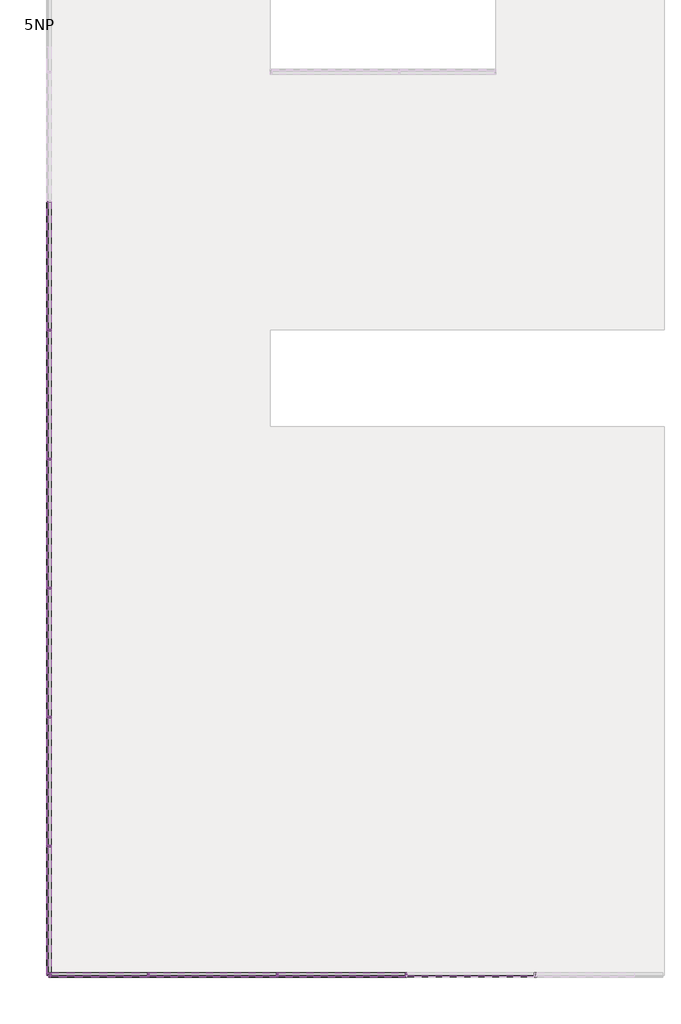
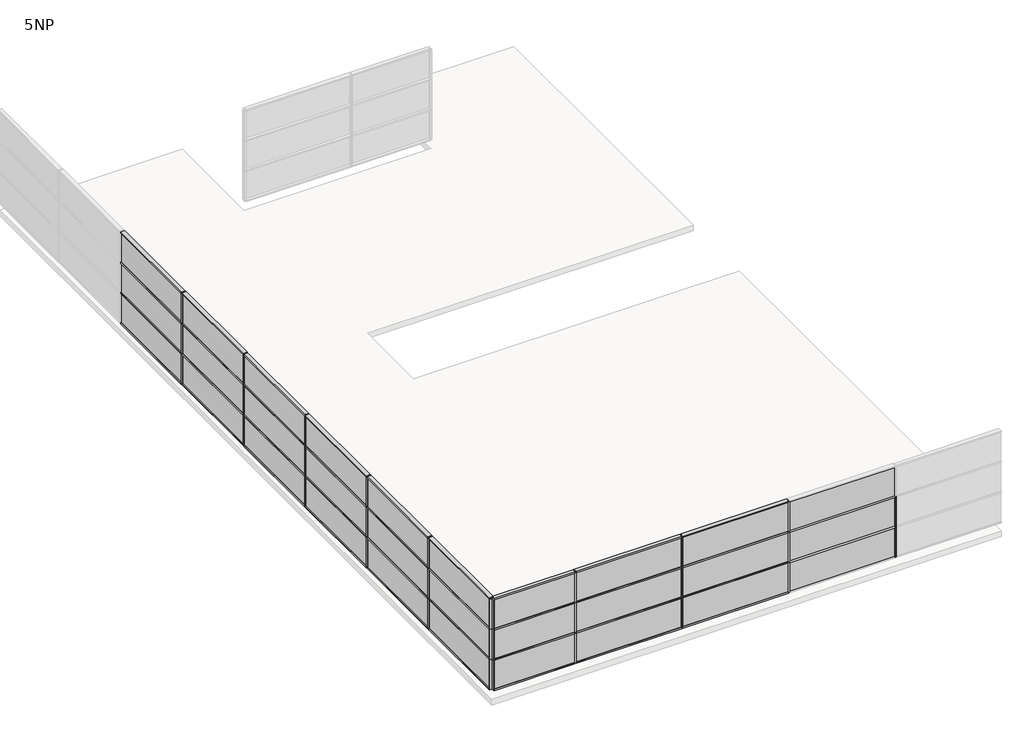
# One storey, part 1 of 3: 68 members, 30 plates.
"""IFC4 building model written with IfcOpenShell, lengths in millimetres."""

from ifc_helpers import new_model, si_unit, origin, place, context, project, spatial, transform, mapped, element, save
from components import rectangular_mullion_50_x_150mm_d99dc9be, rectangular_mullion_50_x_150mm_6588f46c, rectangular_mullion_50_x_150mm_a037c29c, rectangular_mullion_50_x_150mm_c2546fd4, rectangular_mullion_50_x_150mm_cd873b1a, system_panel_glazed_8e9402eb, system_panel_glazed_89ac83a7, system_panel_glazed_2dc425e2

model = new_model("IFC4")

# Units and contexts
model_context = context("Model", 3, world=origin())
ifc_project = project(units=[si_unit("LENGTHUNIT", "METRE", prefix="MILLI")], contexts=[model_context])

# Site, building, storey
site = spatial("IfcSite", under=ifc_project)
building = spatial("IfcBuilding", under=site)
storey = spatial("IfcBuildingStorey", under=building, Name="5NP", Elevation=20000.0)

# Members
placement = place(None, origin())
rectangular_mullion_50_x_150mm_shape = rectangular_mullion_50_x_150mm_d99dc9be(model_context)
element("IfcMember", 1, ObjectType="Rectangular Mullion : 50 x 150mm", at=placement, inside=storey, context=model_context, shape_type="MappedRepresentation", body=[
    mapped(rectangular_mullion_50_x_150mm_shape, transform((9503.2660975, -23624.0160434, 21600.0), x_axis=(-1.0, 0.0, 0.0), y_axis=(0.0, -1.0, 0.0), z_axis=(0.0, 0.0, 1.0))),
])
element("IfcMember", 2, ObjectType="Rectangular Mullion : 50 x 150mm", at=placement, inside=storey, context=model_context, shape_type="MappedRepresentation", body=[
    mapped(rectangular_mullion_50_x_150mm_shape, transform((9503.2660975, -23624.0160434, 22800.0), x_axis=(-1.0, 0.0, 0.0), y_axis=(0.0, -1.0, 0.0), z_axis=(0.0, 0.0, 1.0))),
])
element("IfcMember", 3, ObjectType="Rectangular Mullion : 50 x 150mm", at=placement, inside=storey, context=model_context, shape_type="MappedRepresentation", body=[
    mapped(rectangular_mullion_50_x_150mm_shape, transform((5503.2660975, -23624.0160434, 21600.0), x_axis=(-1.0, 0.0, 0.0), y_axis=(0.0, -1.0, 0.0), z_axis=(0.0, 0.0, 1.0))),
])
element("IfcMember", 4, ObjectType="Rectangular Mullion : 50 x 150mm", at=placement, inside=storey, context=model_context, shape_type="MappedRepresentation", body=[
    mapped(rectangular_mullion_50_x_150mm_shape, transform((5503.2660975, -23624.0160434, 22800.0), x_axis=(-1.0, 0.0, 0.0), y_axis=(0.0, -1.0, 0.0), z_axis=(0.0, 0.0, 1.0))),
])
element("IfcMember", 5, ObjectType="Rectangular Mullion : 50 x 150mm", at=placement, inside=storey, context=model_context, shape_type="MappedRepresentation", body=[
    mapped(rectangular_mullion_50_x_150mm_shape, transform((5503.2660975, -23624.0160434, 24000.0), x_axis=(-1.0, 0.0, 0.0), y_axis=(0.0, -1.0, 0.0), z_axis=(0.0, 0.0, 1.0))),
])
element("IfcMember", 6, ObjectType="Rectangular Mullion : 50 x 150mm", at=placement, inside=storey, context=model_context, shape_type="MappedRepresentation", body=[
    mapped(rectangular_mullion_50_x_150mm_shape, transform((1503.2660975, -23624.0160434, 21600.0), x_axis=(-1.0, 0.0, 0.0), y_axis=(0.0, -1.0, 0.0), z_axis=(0.0, 0.0, 1.0))),
])
element("IfcMember", 7, ObjectType="Rectangular Mullion : 50 x 150mm", at=placement, inside=storey, context=model_context, shape_type="MappedRepresentation", body=[
    mapped(rectangular_mullion_50_x_150mm_shape, transform((1503.2660975, -23624.0160434, 22800.0), x_axis=(-1.0, 0.0, 0.0), y_axis=(0.0, -1.0, 0.0), z_axis=(0.0, 0.0, 1.0))),
])
element("IfcMember", 8, ObjectType="Rectangular Mullion : 50 x 150mm", at=placement, inside=storey, context=model_context, shape_type="MappedRepresentation", body=[
    mapped(rectangular_mullion_50_x_150mm_shape, transform((1503.2660975, -23624.0160434, 24000.0), x_axis=(-1.0, 0.0, 0.0), y_axis=(0.0, -1.0, 0.0), z_axis=(0.0, 0.0, 1.0))),
])
element("IfcMember", 9, ObjectType="Rectangular Mullion : 50 x 150mm", at=placement, inside=storey, context=model_context, shape_type="MappedRepresentation", body=[
    mapped(rectangular_mullion_50_x_150mm_shape, transform((-2496.7339025, -23624.0160434, 21600.0), x_axis=(-1.0, 0.0, 0.0), y_axis=(0.0, -1.0, 0.0), z_axis=(0.0, 0.0, 1.0))),
])
element("IfcMember", 10, ObjectType="Rectangular Mullion : 50 x 150mm", at=placement, inside=storey, context=model_context, shape_type="MappedRepresentation", body=[
    mapped(rectangular_mullion_50_x_150mm_shape, transform((-2496.7339025, -23624.0160434, 22800.0), x_axis=(-1.0, 0.0, 0.0), y_axis=(0.0, -1.0, 0.0), z_axis=(0.0, 0.0, 1.0))),
])
element("IfcMember", 11, ObjectType="Rectangular Mullion : 50 x 150mm", at=placement, inside=storey, context=model_context, shape_type="MappedRepresentation", body=[
    mapped(rectangular_mullion_50_x_150mm_shape, transform((-2496.7339025, -23624.0160434, 24000.0), x_axis=(-1.0, 0.0, 0.0), y_axis=(0.0, -1.0, 0.0), z_axis=(0.0, 0.0, 1.0))),
])
element("IfcMember", 12, ObjectType="Rectangular Mullion : 50 x 150mm", at=placement, inside=storey, context=model_context, shape_type="MappedRepresentation", body=[
    mapped(rectangular_mullion_50_x_150mm_shape, transform((-5587.173406, -19624.0160434, 21600.0), x_axis=(0.0, 1.0, 0.0), y_axis=(-1.0, 0.0, 0.0), z_axis=(0.0, 0.0, 1.0))),
])
element("IfcMember", 13, ObjectType="Rectangular Mullion : 50 x 150mm", at=placement, inside=storey, context=model_context, shape_type="MappedRepresentation", body=[
    mapped(rectangular_mullion_50_x_150mm_shape, transform((-5587.173406, -19624.0160434, 22800.0), x_axis=(0.0, 1.0, 0.0), y_axis=(-1.0, 0.0, 0.0), z_axis=(0.0, 0.0, 1.0))),
])
element("IfcMember", 14, ObjectType="Rectangular Mullion : 50 x 150mm", at=placement, inside=storey, context=model_context, shape_type="MappedRepresentation", body=[
    mapped(rectangular_mullion_50_x_150mm_shape, transform((-5587.173406, -19624.0160434, 24000.0), x_axis=(0.0, 1.0, 0.0), y_axis=(-1.0, 0.0, 0.0), z_axis=(0.0, 0.0, 1.0))),
])
element("IfcMember", 15, ObjectType="Rectangular Mullion : 50 x 150mm", at=placement, inside=storey, context=model_context, shape_type="MappedRepresentation", body=[
    mapped(rectangular_mullion_50_x_150mm_shape, transform((-5587.173406, -15624.0160434, 21600.0), x_axis=(0.0, 1.0, 0.0), y_axis=(-1.0, 0.0, 0.0), z_axis=(0.0, 0.0, 1.0))),
])
element("IfcMember", 16, ObjectType="Rectangular Mullion : 50 x 150mm", at=placement, inside=storey, context=model_context, shape_type="MappedRepresentation", body=[
    mapped(rectangular_mullion_50_x_150mm_shape, transform((-5587.173406, -15624.0160434, 22800.0), x_axis=(0.0, 1.0, 0.0), y_axis=(-1.0, 0.0, 0.0), z_axis=(0.0, 0.0, 1.0))),
])
element("IfcMember", 17, ObjectType="Rectangular Mullion : 50 x 150mm", at=placement, inside=storey, context=model_context, shape_type="MappedRepresentation", body=[
    mapped(rectangular_mullion_50_x_150mm_shape, transform((-5587.173406, -15624.0160434, 24000.0), x_axis=(0.0, 1.0, 0.0), y_axis=(-1.0, 0.0, 0.0), z_axis=(0.0, 0.0, 1.0))),
])
element("IfcMember", 18, ObjectType="Rectangular Mullion : 50 x 150mm", at=placement, inside=storey, context=model_context, shape_type="MappedRepresentation", body=[
    mapped(rectangular_mullion_50_x_150mm_shape, transform((-5587.173406, -11624.0160434, 21600.0), x_axis=(0.0, 1.0, 0.0), y_axis=(-1.0, 0.0, 0.0), z_axis=(0.0, 0.0, 1.0))),
])
element("IfcMember", 19, ObjectType="Rectangular Mullion : 50 x 150mm", at=placement, inside=storey, context=model_context, shape_type="MappedRepresentation", body=[
    mapped(rectangular_mullion_50_x_150mm_shape, transform((-5587.173406, -11624.0160434, 22800.0), x_axis=(0.0, 1.0, 0.0), y_axis=(-1.0, 0.0, 0.0), z_axis=(0.0, 0.0, 1.0))),
])
element("IfcMember", 20, ObjectType="Rectangular Mullion : 50 x 150mm", at=placement, inside=storey, context=model_context, shape_type="MappedRepresentation", body=[
    mapped(rectangular_mullion_50_x_150mm_shape, transform((-5587.173406, -11624.0160434, 24000.0), x_axis=(0.0, 1.0, 0.0), y_axis=(-1.0, 0.0, 0.0), z_axis=(0.0, 0.0, 1.0))),
])
element("IfcMember", 21, ObjectType="Rectangular Mullion : 50 x 150mm", at=placement, inside=storey, context=model_context, shape_type="MappedRepresentation", body=[
    mapped(rectangular_mullion_50_x_150mm_shape, transform((-5587.173406, -7624.0160434, 21600.0), x_axis=(0.0, 1.0, 0.0), y_axis=(-1.0, 0.0, 0.0), z_axis=(0.0, 0.0, 1.0))),
])
element("IfcMember", 22, ObjectType="Rectangular Mullion : 50 x 150mm", at=placement, inside=storey, context=model_context, shape_type="MappedRepresentation", body=[
    mapped(rectangular_mullion_50_x_150mm_shape, transform((-5587.173406, -7624.0160434, 22800.0), x_axis=(0.0, 1.0, 0.0), y_axis=(-1.0, 0.0, 0.0), z_axis=(0.0, 0.0, 1.0))),
])
element("IfcMember", 23, ObjectType="Rectangular Mullion : 50 x 150mm", at=placement, inside=storey, context=model_context, shape_type="MappedRepresentation", body=[
    mapped(rectangular_mullion_50_x_150mm_shape, transform((-5587.173406, -7624.0160434, 24000.0), x_axis=(0.0, 1.0, 0.0), y_axis=(-1.0, 0.0, 0.0), z_axis=(0.0, 0.0, 1.0))),
])
element("IfcMember", 24, ObjectType="Rectangular Mullion : 50 x 150mm", at=placement, inside=storey, context=model_context, shape_type="MappedRepresentation", body=[
    mapped(rectangular_mullion_50_x_150mm_shape, transform((-5587.173406, -3624.0160434, 21600.0), x_axis=(0.0, 1.0, 0.0), y_axis=(-1.0, 0.0, 0.0), z_axis=(0.0, 0.0, 1.0))),
])
element("IfcMember", 25, ObjectType="Rectangular Mullion : 50 x 150mm", at=placement, inside=storey, context=model_context, shape_type="MappedRepresentation", body=[
    mapped(rectangular_mullion_50_x_150mm_shape, transform((-5587.173406, -3624.0160434, 22800.0), x_axis=(0.0, 1.0, 0.0), y_axis=(-1.0, 0.0, 0.0), z_axis=(0.0, 0.0, 1.0))),
])
element("IfcMember", 26, ObjectType="Rectangular Mullion : 50 x 150mm", at=placement, inside=storey, context=model_context, shape_type="MappedRepresentation", body=[
    mapped(rectangular_mullion_50_x_150mm_shape, transform((-5587.173406, -3624.0160434, 24000.0), x_axis=(0.0, 1.0, 0.0), y_axis=(-1.0, 0.0, 0.0), z_axis=(0.0, 0.0, 1.0))),
])
rectangular_mullion_50_x_150mm_2_shape = rectangular_mullion_50_x_150mm_6588f46c(model_context)
element("IfcMember", 27, ObjectType="Rectangular Mullion : 50 x 150mm", at=placement, inside=storey, context=model_context, shape_type="MappedRepresentation", body=[
    mapped(rectangular_mullion_50_x_150mm_2_shape, transform((-5587.173406, -23624.0160434, 21600.0), x_axis=(-1.0, 0.0, 0.0), y_axis=(0.0, -1.0, 0.0), z_axis=(0.0, 0.0, 1.0))),
])
element("IfcMember", 28, ObjectType="Rectangular Mullion : 50 x 150mm", at=placement, inside=storey, context=model_context, shape_type="MappedRepresentation", body=[
    mapped(rectangular_mullion_50_x_150mm_2_shape, transform((-5587.173406, -23624.0160434, 22800.0), x_axis=(-1.0, 0.0, 0.0), y_axis=(0.0, -1.0, 0.0), z_axis=(0.0, 0.0, 1.0))),
])
element("IfcMember", 29, ObjectType="Rectangular Mullion : 50 x 150mm", at=placement, inside=storey, context=model_context, shape_type="MappedRepresentation", body=[
    mapped(rectangular_mullion_50_x_150mm_2_shape, transform((-5587.173406, -23624.0160434, 24000.0), x_axis=(-1.0, 0.0, 0.0), y_axis=(0.0, -1.0, 0.0), z_axis=(0.0, 0.0, 1.0))),
])
rectangular_mullion_50_x_150mm_3_shape = rectangular_mullion_50_x_150mm_a037c29c(model_context)
element("IfcMember", 30, ObjectType="Rectangular Mullion : 50 x 150mm", at=placement, inside=storey, context=model_context, shape_type="MappedRepresentation", body=[
    mapped(rectangular_mullion_50_x_150mm_3_shape, transform((5478.2660975, -23624.0160434, 20400.0), x_axis=(0.0, 0.0, 1.0), y_axis=(0.0, -1.0, 0.0), z_axis=(1.0, 0.0, 0.0))),
])
element("IfcMember", 31, ObjectType="Rectangular Mullion : 50 x 150mm", at=placement, inside=storey, context=model_context, shape_type="MappedRepresentation", body=[
    mapped(rectangular_mullion_50_x_150mm_3_shape, transform((1478.2660975, -23624.0160434, 20400.0), x_axis=(0.0, 0.0, 1.0), y_axis=(0.0, -1.0, 0.0), z_axis=(1.0, 0.0, 0.0))),
])
element("IfcMember", 32, ObjectType="Rectangular Mullion : 50 x 150mm", at=placement, inside=storey, context=model_context, shape_type="MappedRepresentation", body=[
    mapped(rectangular_mullion_50_x_150mm_3_shape, transform((5478.2660975, -23624.0160434, 21600.0), x_axis=(0.0, 0.0, 1.0), y_axis=(0.0, -1.0, 0.0), z_axis=(1.0, 0.0, 0.0))),
])
element("IfcMember", 33, ObjectType="Rectangular Mullion : 50 x 150mm", at=placement, inside=storey, context=model_context, shape_type="MappedRepresentation", body=[
    mapped(rectangular_mullion_50_x_150mm_3_shape, transform((1478.2660975, -23624.0160434, 21600.0), x_axis=(0.0, 0.0, 1.0), y_axis=(0.0, -1.0, 0.0), z_axis=(1.0, 0.0, 0.0))),
])
element("IfcMember", 34, ObjectType="Rectangular Mullion : 50 x 150mm", at=placement, inside=storey, context=model_context, shape_type="MappedRepresentation", body=[
    mapped(rectangular_mullion_50_x_150mm_3_shape, transform((5478.2660975, -23624.0160434, 22800.0), x_axis=(0.0, 0.0, 1.0), y_axis=(0.0, -1.0, 0.0), z_axis=(1.0, 0.0, 0.0))),
])
element("IfcMember", 35, ObjectType="Rectangular Mullion : 50 x 150mm", at=placement, inside=storey, context=model_context, shape_type="MappedRepresentation", body=[
    mapped(rectangular_mullion_50_x_150mm_3_shape, transform((1478.2660975, -23624.0160434, 22800.0), x_axis=(0.0, 0.0, 1.0), y_axis=(0.0, -1.0, 0.0), z_axis=(1.0, 0.0, 0.0))),
])
element("IfcMember", 36, ObjectType="Rectangular Mullion : 50 x 150mm", at=placement, inside=storey, context=model_context, shape_type="MappedRepresentation", body=[
    mapped(rectangular_mullion_50_x_150mm_3_shape, transform((5478.2660975, -23624.0160434, 24000.0), x_axis=(0.0, 0.0, 1.0), y_axis=(0.0, -1.0, 0.0), z_axis=(1.0, 0.0, 0.0))),
])
element("IfcMember", 37, ObjectType="Rectangular Mullion : 50 x 150mm", at=placement, inside=storey, context=model_context, shape_type="MappedRepresentation", body=[
    mapped(rectangular_mullion_50_x_150mm_3_shape, transform((1478.2660975, -23624.0160434, 24000.0), x_axis=(0.0, 0.0, 1.0), y_axis=(0.0, -1.0, 0.0), z_axis=(1.0, 0.0, 0.0))),
])
element("IfcMember", 38, ObjectType="Rectangular Mullion : 50 x 150mm", at=placement, inside=storey, context=model_context, shape_type="MappedRepresentation", body=[
    mapped(rectangular_mullion_50_x_150mm_3_shape, transform((-5587.173406, -19599.0160434, 20400.0), x_axis=(0.0, 0.0, 1.0), y_axis=(-1.0, 0.0, 0.0), z_axis=(0.0, -1.0, 0.0))),
])
element("IfcMember", 39, ObjectType="Rectangular Mullion : 50 x 150mm", at=placement, inside=storey, context=model_context, shape_type="MappedRepresentation", body=[
    mapped(rectangular_mullion_50_x_150mm_3_shape, transform((-5587.173406, -15599.0160434, 20400.0), x_axis=(0.0, 0.0, 1.0), y_axis=(-1.0, 0.0, 0.0), z_axis=(0.0, -1.0, 0.0))),
])
element("IfcMember", 40, ObjectType="Rectangular Mullion : 50 x 150mm", at=placement, inside=storey, context=model_context, shape_type="MappedRepresentation", body=[
    mapped(rectangular_mullion_50_x_150mm_3_shape, transform((-5587.173406, -11599.0160434, 20400.0), x_axis=(0.0, 0.0, 1.0), y_axis=(-1.0, 0.0, 0.0), z_axis=(0.0, -1.0, 0.0))),
])
element("IfcMember", 41, ObjectType="Rectangular Mullion : 50 x 150mm", at=placement, inside=storey, context=model_context, shape_type="MappedRepresentation", body=[
    mapped(rectangular_mullion_50_x_150mm_3_shape, transform((-5587.173406, -7599.0160434, 20400.0), x_axis=(0.0, 0.0, 1.0), y_axis=(-1.0, 0.0, 0.0), z_axis=(0.0, -1.0, 0.0))),
])
element("IfcMember", 42, ObjectType="Rectangular Mullion : 50 x 150mm", at=placement, inside=storey, context=model_context, shape_type="MappedRepresentation", body=[
    mapped(rectangular_mullion_50_x_150mm_3_shape, transform((-5587.173406, -3599.0160434, 20400.0), x_axis=(0.0, 0.0, 1.0), y_axis=(-1.0, 0.0, 0.0), z_axis=(0.0, -1.0, 0.0))),
])
element("IfcMember", 43, ObjectType="Rectangular Mullion : 50 x 150mm", at=placement, inside=storey, context=model_context, shape_type="MappedRepresentation", body=[
    mapped(rectangular_mullion_50_x_150mm_3_shape, transform((-5587.173406, -19599.0160434, 21600.0), x_axis=(0.0, 0.0, 1.0), y_axis=(-1.0, 0.0, 0.0), z_axis=(0.0, -1.0, 0.0))),
])
element("IfcMember", 44, ObjectType="Rectangular Mullion : 50 x 150mm", at=placement, inside=storey, context=model_context, shape_type="MappedRepresentation", body=[
    mapped(rectangular_mullion_50_x_150mm_3_shape, transform((-5587.173406, -15599.0160434, 21600.0), x_axis=(0.0, 0.0, 1.0), y_axis=(-1.0, 0.0, 0.0), z_axis=(0.0, -1.0, 0.0))),
])
element("IfcMember", 45, ObjectType="Rectangular Mullion : 50 x 150mm", at=placement, inside=storey, context=model_context, shape_type="MappedRepresentation", body=[
    mapped(rectangular_mullion_50_x_150mm_3_shape, transform((-5587.173406, -11599.0160434, 21600.0), x_axis=(0.0, 0.0, 1.0), y_axis=(-1.0, 0.0, 0.0), z_axis=(0.0, -1.0, 0.0))),
])
element("IfcMember", 46, ObjectType="Rectangular Mullion : 50 x 150mm", at=placement, inside=storey, context=model_context, shape_type="MappedRepresentation", body=[
    mapped(rectangular_mullion_50_x_150mm_3_shape, transform((-5587.173406, -7599.0160434, 21600.0), x_axis=(0.0, 0.0, 1.0), y_axis=(-1.0, 0.0, 0.0), z_axis=(0.0, -1.0, 0.0))),
])
element("IfcMember", 47, ObjectType="Rectangular Mullion : 50 x 150mm", at=placement, inside=storey, context=model_context, shape_type="MappedRepresentation", body=[
    mapped(rectangular_mullion_50_x_150mm_3_shape, transform((-5587.173406, -3599.0160434, 21600.0), x_axis=(0.0, 0.0, 1.0), y_axis=(-1.0, 0.0, 0.0), z_axis=(0.0, -1.0, 0.0))),
])
element("IfcMember", 48, ObjectType="Rectangular Mullion : 50 x 150mm", at=placement, inside=storey, context=model_context, shape_type="MappedRepresentation", body=[
    mapped(rectangular_mullion_50_x_150mm_3_shape, transform((-5587.173406, -19599.0160434, 22800.0), x_axis=(0.0, 0.0, 1.0), y_axis=(-1.0, 0.0, 0.0), z_axis=(0.0, -1.0, 0.0))),
])
element("IfcMember", 49, ObjectType="Rectangular Mullion : 50 x 150mm", at=placement, inside=storey, context=model_context, shape_type="MappedRepresentation", body=[
    mapped(rectangular_mullion_50_x_150mm_3_shape, transform((-5587.173406, -15599.0160434, 22800.0), x_axis=(0.0, 0.0, 1.0), y_axis=(-1.0, 0.0, 0.0), z_axis=(0.0, -1.0, 0.0))),
])
element("IfcMember", 50, ObjectType="Rectangular Mullion : 50 x 150mm", at=placement, inside=storey, context=model_context, shape_type="MappedRepresentation", body=[
    mapped(rectangular_mullion_50_x_150mm_3_shape, transform((-5587.173406, -11599.0160434, 22800.0), x_axis=(0.0, 0.0, 1.0), y_axis=(-1.0, 0.0, 0.0), z_axis=(0.0, -1.0, 0.0))),
])
element("IfcMember", 51, ObjectType="Rectangular Mullion : 50 x 150mm", at=placement, inside=storey, context=model_context, shape_type="MappedRepresentation", body=[
    mapped(rectangular_mullion_50_x_150mm_3_shape, transform((-5587.173406, -7599.0160434, 22800.0), x_axis=(0.0, 0.0, 1.0), y_axis=(-1.0, 0.0, 0.0), z_axis=(0.0, -1.0, 0.0))),
])
element("IfcMember", 52, ObjectType="Rectangular Mullion : 50 x 150mm", at=placement, inside=storey, context=model_context, shape_type="MappedRepresentation", body=[
    mapped(rectangular_mullion_50_x_150mm_3_shape, transform((-5587.173406, -3599.0160434, 22800.0), x_axis=(0.0, 0.0, 1.0), y_axis=(-1.0, 0.0, 0.0), z_axis=(0.0, -1.0, 0.0))),
])
element("IfcMember", 53, ObjectType="Rectangular Mullion : 50 x 150mm", at=placement, inside=storey, context=model_context, shape_type="MappedRepresentation", body=[
    mapped(rectangular_mullion_50_x_150mm_3_shape, transform((-5587.173406, -19599.0160434, 24000.0), x_axis=(0.0, 0.0, 1.0), y_axis=(-1.0, 0.0, 0.0), z_axis=(0.0, -1.0, 0.0))),
])
element("IfcMember", 54, ObjectType="Rectangular Mullion : 50 x 150mm", at=placement, inside=storey, context=model_context, shape_type="MappedRepresentation", body=[
    mapped(rectangular_mullion_50_x_150mm_3_shape, transform((-5587.173406, -15599.0160434, 24000.0), x_axis=(0.0, 0.0, 1.0), y_axis=(-1.0, 0.0, 0.0), z_axis=(0.0, -1.0, 0.0))),
])
element("IfcMember", 55, ObjectType="Rectangular Mullion : 50 x 150mm", at=placement, inside=storey, context=model_context, shape_type="MappedRepresentation", body=[
    mapped(rectangular_mullion_50_x_150mm_3_shape, transform((-5587.173406, -11599.0160434, 24000.0), x_axis=(0.0, 0.0, 1.0), y_axis=(-1.0, 0.0, 0.0), z_axis=(0.0, -1.0, 0.0))),
])
element("IfcMember", 56, ObjectType="Rectangular Mullion : 50 x 150mm", at=placement, inside=storey, context=model_context, shape_type="MappedRepresentation", body=[
    mapped(rectangular_mullion_50_x_150mm_3_shape, transform((-5587.173406, -7599.0160434, 24000.0), x_axis=(0.0, 0.0, 1.0), y_axis=(-1.0, 0.0, 0.0), z_axis=(0.0, -1.0, 0.0))),
])
element("IfcMember", 57, ObjectType="Rectangular Mullion : 50 x 150mm", at=placement, inside=storey, context=model_context, shape_type="MappedRepresentation", body=[
    mapped(rectangular_mullion_50_x_150mm_3_shape, transform((-5587.173406, -3599.0160434, 24000.0), x_axis=(0.0, 0.0, 1.0), y_axis=(-1.0, 0.0, 0.0), z_axis=(0.0, -1.0, 0.0))),
])
rectangular_mullion_50_x_150mm_4_shape = rectangular_mullion_50_x_150mm_c2546fd4(model_context)
element("IfcMember", 58, ObjectType="Rectangular Mullion : 50 x 150mm", at=placement, inside=storey, context=model_context, shape_type="MappedRepresentation", body=[
    mapped(rectangular_mullion_50_x_150mm_4_shape, transform((-5587.173406, -23574.0160434, 20400.0), x_axis=(0.0, 0.0, 1.0), y_axis=(-1.0, 0.0, 0.0), z_axis=(0.0, -1.0, 0.0))),
])
element("IfcMember", 59, ObjectType="Rectangular Mullion : 50 x 150mm", at=placement, inside=storey, context=model_context, shape_type="MappedRepresentation", body=[
    mapped(rectangular_mullion_50_x_150mm_4_shape, transform((-5587.173406, -23574.0160434, 21600.0), x_axis=(0.0, 0.0, 1.0), y_axis=(-1.0, 0.0, 0.0), z_axis=(0.0, -1.0, 0.0))),
])
element("IfcMember", 60, ObjectType="Rectangular Mullion : 50 x 150mm", at=placement, inside=storey, context=model_context, shape_type="MappedRepresentation", body=[
    mapped(rectangular_mullion_50_x_150mm_4_shape, transform((-5587.173406, -23574.0160434, 22800.0), x_axis=(0.0, 0.0, 1.0), y_axis=(-1.0, 0.0, 0.0), z_axis=(0.0, -1.0, 0.0))),
])
element("IfcMember", 61, ObjectType="Rectangular Mullion : 50 x 150mm", at=placement, inside=storey, context=model_context, shape_type="MappedRepresentation", body=[
    mapped(rectangular_mullion_50_x_150mm_4_shape, transform((-5587.173406, -23574.0160434, 24000.0), x_axis=(0.0, 0.0, 1.0), y_axis=(-1.0, 0.0, 0.0), z_axis=(0.0, -1.0, 0.0))),
])
element("IfcMember", 62, ObjectType="Rectangular Mullion : 50 x 150mm", at=placement, inside=storey, context=model_context, shape_type="MappedRepresentation", body=[
    mapped(rectangular_mullion_50_x_150mm_2_shape, transform((-5587.173406, -23624.0160434, 20400.0), x_axis=(0.0, -1.0, 0.0), y_axis=(-1.0, 0.0, 0.0), z_axis=(0.0, 0.0, -1.0))),
])
element("IfcMember", 63, ObjectType="Rectangular Mullion : 50 x 150mm", at=placement, inside=storey, context=model_context, shape_type="MappedRepresentation", body=[
    mapped(rectangular_mullion_50_x_150mm_2_shape, transform((-5587.173406, -23624.0160434, 21600.0), x_axis=(0.0, -1.0, 0.0), y_axis=(-1.0, 0.0, 0.0), z_axis=(0.0, 0.0, -1.0))),
])
element("IfcMember", 64, ObjectType="Rectangular Mullion : 50 x 150mm", at=placement, inside=storey, context=model_context, shape_type="MappedRepresentation", body=[
    mapped(rectangular_mullion_50_x_150mm_2_shape, transform((-5587.173406, -23624.0160434, 22800.0), x_axis=(0.0, -1.0, 0.0), y_axis=(-1.0, 0.0, 0.0), z_axis=(0.0, 0.0, -1.0))),
])
rectangular_mullion_50_x_150mm_5_shape = rectangular_mullion_50_x_150mm_cd873b1a(model_context)
element("IfcMember", 65, ObjectType="Rectangular Mullion : 50 x 150mm", at=placement, inside=storey, context=model_context, shape_type="MappedRepresentation", body=[
    mapped(rectangular_mullion_50_x_150mm_5_shape, transform((-2521.7339025, -23624.0160434, 20400.0), x_axis=(0.0, 0.0, 1.0), y_axis=(0.0, -1.0, 0.0), z_axis=(1.0, 0.0, 0.0))),
])
element("IfcMember", 66, ObjectType="Rectangular Mullion : 50 x 150mm", at=placement, inside=storey, context=model_context, shape_type="MappedRepresentation", body=[
    mapped(rectangular_mullion_50_x_150mm_5_shape, transform((-2521.7339025, -23624.0160434, 21600.0), x_axis=(0.0, 0.0, 1.0), y_axis=(0.0, -1.0, 0.0), z_axis=(1.0, 0.0, 0.0))),
])
element("IfcMember", 67, ObjectType="Rectangular Mullion : 50 x 150mm", at=placement, inside=storey, context=model_context, shape_type="MappedRepresentation", body=[
    mapped(rectangular_mullion_50_x_150mm_5_shape, transform((-2521.7339025, -23624.0160434, 22800.0), x_axis=(0.0, 0.0, 1.0), y_axis=(0.0, -1.0, 0.0), z_axis=(1.0, 0.0, 0.0))),
])
element("IfcMember", 68, ObjectType="Rectangular Mullion : 50 x 150mm", at=placement, inside=storey, context=model_context, shape_type="MappedRepresentation", body=[
    mapped(rectangular_mullion_50_x_150mm_5_shape, transform((-2521.7339025, -23624.0160434, 24000.0), x_axis=(0.0, 0.0, 1.0), y_axis=(0.0, -1.0, 0.0), z_axis=(1.0, 0.0, 0.0))),
])

# Plates
system_panel_glazed_shape = system_panel_glazed_8e9402eb(model_context)
element("IfcPlate", 69, ObjectType="System Panel : Glazed", at=placement, inside=storey, context=model_context, shape_type="MappedRepresentation", body=[
    mapped(system_panel_glazed_shape, transform((-5587.173406, -21611.5160434, 20425.0), x_axis=(0.0, 1.0, 0.0), y_axis=(-1.0, 0.0, 0.0), z_axis=(0.0, 0.0, 1.0))),
])
element("IfcPlate", 70, ObjectType="System Panel : Glazed", at=placement, inside=storey, context=model_context, shape_type="MappedRepresentation", body=[
    mapped(system_panel_glazed_shape, transform((-5587.173406, -21611.5160434, 21625.0), x_axis=(0.0, 1.0, 0.0), y_axis=(-1.0, 0.0, 0.0), z_axis=(0.0, 0.0, 1.0))),
])
element("IfcPlate", 71, ObjectType="System Panel : Glazed", at=placement, inside=storey, context=model_context, shape_type="MappedRepresentation", body=[
    mapped(system_panel_glazed_shape, transform((-5587.173406, -21611.5160434, 22825.0), x_axis=(0.0, 1.0, 0.0), y_axis=(-1.0, 0.0, 0.0), z_axis=(0.0, 0.0, 1.0))),
])
system_panel_glazed_2_shape = system_panel_glazed_89ac83a7(model_context)
element("IfcPlate", 72, ObjectType="System Panel : Glazed", at=placement, inside=storey, context=model_context, shape_type="MappedRepresentation", body=[
    mapped(system_panel_glazed_2_shape, transform((-5587.173406, -17624.0160434, 20425.0), x_axis=(0.0, 1.0, 0.0), y_axis=(-1.0, 0.0, 0.0), z_axis=(0.0, 0.0, 1.0))),
])
element("IfcPlate", 73, ObjectType="System Panel : Glazed", at=placement, inside=storey, context=model_context, shape_type="MappedRepresentation", body=[
    mapped(system_panel_glazed_2_shape, transform((-5587.173406, -13624.0160434, 20425.0), x_axis=(0.0, 1.0, 0.0), y_axis=(-1.0, 0.0, 0.0), z_axis=(0.0, 0.0, 1.0))),
])
element("IfcPlate", 74, ObjectType="System Panel : Glazed", at=placement, inside=storey, context=model_context, shape_type="MappedRepresentation", body=[
    mapped(system_panel_glazed_2_shape, transform((-5587.173406, -9624.0160434, 20425.0), x_axis=(0.0, 1.0, 0.0), y_axis=(-1.0, 0.0, 0.0), z_axis=(0.0, 0.0, 1.0))),
])
element("IfcPlate", 75, ObjectType="System Panel : Glazed", at=placement, inside=storey, context=model_context, shape_type="MappedRepresentation", body=[
    mapped(system_panel_glazed_2_shape, transform((-5587.173406, -5624.0160434, 20425.0), x_axis=(0.0, 1.0, 0.0), y_axis=(-1.0, 0.0, 0.0), z_axis=(0.0, 0.0, 1.0))),
])
element("IfcPlate", 76, ObjectType="System Panel : Glazed", at=placement, inside=storey, context=model_context, shape_type="MappedRepresentation", body=[
    mapped(system_panel_glazed_2_shape, transform((-5587.173406, -1624.0160434, 20425.0), x_axis=(0.0, 1.0, 0.0), y_axis=(-1.0, 0.0, 0.0), z_axis=(0.0, 0.0, 1.0))),
])
element("IfcPlate", 77, ObjectType="System Panel : Glazed", at=placement, inside=storey, context=model_context, shape_type="MappedRepresentation", body=[
    mapped(system_panel_glazed_2_shape, transform((-5587.173406, -17624.0160434, 21625.0), x_axis=(0.0, 1.0, 0.0), y_axis=(-1.0, 0.0, 0.0), z_axis=(0.0, 0.0, 1.0))),
])
element("IfcPlate", 78, ObjectType="System Panel : Glazed", at=placement, inside=storey, context=model_context, shape_type="MappedRepresentation", body=[
    mapped(system_panel_glazed_2_shape, transform((-5587.173406, -13624.0160434, 21625.0), x_axis=(0.0, 1.0, 0.0), y_axis=(-1.0, 0.0, 0.0), z_axis=(0.0, 0.0, 1.0))),
])
element("IfcPlate", 79, ObjectType="System Panel : Glazed", at=placement, inside=storey, context=model_context, shape_type="MappedRepresentation", body=[
    mapped(system_panel_glazed_2_shape, transform((-5587.173406, -9624.0160434, 21625.0), x_axis=(0.0, 1.0, 0.0), y_axis=(-1.0, 0.0, 0.0), z_axis=(0.0, 0.0, 1.0))),
])
element("IfcPlate", 80, ObjectType="System Panel : Glazed", at=placement, inside=storey, context=model_context, shape_type="MappedRepresentation", body=[
    mapped(system_panel_glazed_2_shape, transform((-5587.173406, -5624.0160434, 21625.0), x_axis=(0.0, 1.0, 0.0), y_axis=(-1.0, 0.0, 0.0), z_axis=(0.0, 0.0, 1.0))),
])
element("IfcPlate", 81, ObjectType="System Panel : Glazed", at=placement, inside=storey, context=model_context, shape_type="MappedRepresentation", body=[
    mapped(system_panel_glazed_2_shape, transform((-5587.173406, -1624.0160434, 21625.0), x_axis=(0.0, 1.0, 0.0), y_axis=(-1.0, 0.0, 0.0), z_axis=(0.0, 0.0, 1.0))),
])
element("IfcPlate", 82, ObjectType="System Panel : Glazed", at=placement, inside=storey, context=model_context, shape_type="MappedRepresentation", body=[
    mapped(system_panel_glazed_2_shape, transform((7503.2660975, -23624.0160434, 20425.0), x_axis=(-1.0, 0.0, 0.0), y_axis=(0.0, -1.0, 0.0), z_axis=(0.0, 0.0, 1.0))),
])
element("IfcPlate", 83, ObjectType="System Panel : Glazed", at=placement, inside=storey, context=model_context, shape_type="MappedRepresentation", body=[
    mapped(system_panel_glazed_2_shape, transform((3503.2660975, -23624.0160434, 20425.0), x_axis=(-1.0, 0.0, 0.0), y_axis=(0.0, -1.0, 0.0), z_axis=(0.0, 0.0, 1.0))),
])
element("IfcPlate", 84, ObjectType="System Panel : Glazed", at=placement, inside=storey, context=model_context, shape_type="MappedRepresentation", body=[
    mapped(system_panel_glazed_2_shape, transform((-496.7339025, -23624.0160434, 20425.0), x_axis=(-1.0, 0.0, 0.0), y_axis=(0.0, -1.0, 0.0), z_axis=(0.0, 0.0, 1.0))),
])
element("IfcPlate", 85, ObjectType="System Panel : Glazed", at=placement, inside=storey, context=model_context, shape_type="MappedRepresentation", body=[
    mapped(system_panel_glazed_2_shape, transform((7503.2660975, -23624.0160434, 21625.0), x_axis=(-1.0, 0.0, 0.0), y_axis=(0.0, -1.0, 0.0), z_axis=(0.0, 0.0, 1.0))),
])
element("IfcPlate", 86, ObjectType="System Panel : Glazed", at=placement, inside=storey, context=model_context, shape_type="MappedRepresentation", body=[
    mapped(system_panel_glazed_2_shape, transform((3503.2660975, -23624.0160434, 21625.0), x_axis=(-1.0, 0.0, 0.0), y_axis=(0.0, -1.0, 0.0), z_axis=(0.0, 0.0, 1.0))),
])
element("IfcPlate", 87, ObjectType="System Panel : Glazed", at=placement, inside=storey, context=model_context, shape_type="MappedRepresentation", body=[
    mapped(system_panel_glazed_2_shape, transform((-496.7339025, -23624.0160434, 21625.0), x_axis=(-1.0, 0.0, 0.0), y_axis=(0.0, -1.0, 0.0), z_axis=(0.0, 0.0, 1.0))),
])
element("IfcPlate", 88, ObjectType="System Panel : Glazed", at=placement, inside=storey, context=model_context, shape_type="MappedRepresentation", body=[
    mapped(system_panel_glazed_2_shape, transform((-5587.173406, -17624.0160434, 22825.0), x_axis=(0.0, 1.0, 0.0), y_axis=(-1.0, 0.0, 0.0), z_axis=(0.0, 0.0, 1.0))),
])
element("IfcPlate", 89, ObjectType="System Panel : Glazed", at=placement, inside=storey, context=model_context, shape_type="MappedRepresentation", body=[
    mapped(system_panel_glazed_2_shape, transform((-5587.173406, -13624.0160434, 22825.0), x_axis=(0.0, 1.0, 0.0), y_axis=(-1.0, 0.0, 0.0), z_axis=(0.0, 0.0, 1.0))),
])
element("IfcPlate", 90, ObjectType="System Panel : Glazed", at=placement, inside=storey, context=model_context, shape_type="MappedRepresentation", body=[
    mapped(system_panel_glazed_2_shape, transform((-5587.173406, -9624.0160434, 22825.0), x_axis=(0.0, 1.0, 0.0), y_axis=(-1.0, 0.0, 0.0), z_axis=(0.0, 0.0, 1.0))),
])
element("IfcPlate", 91, ObjectType="System Panel : Glazed", at=placement, inside=storey, context=model_context, shape_type="MappedRepresentation", body=[
    mapped(system_panel_glazed_2_shape, transform((-5587.173406, -5624.0160434, 22825.0), x_axis=(0.0, 1.0, 0.0), y_axis=(-1.0, 0.0, 0.0), z_axis=(0.0, 0.0, 1.0))),
])
element("IfcPlate", 92, ObjectType="System Panel : Glazed", at=placement, inside=storey, context=model_context, shape_type="MappedRepresentation", body=[
    mapped(system_panel_glazed_2_shape, transform((-5587.173406, -1624.0160434, 22825.0), x_axis=(0.0, 1.0, 0.0), y_axis=(-1.0, 0.0, 0.0), z_axis=(0.0, 0.0, 1.0))),
])
element("IfcPlate", 93, ObjectType="System Panel : Glazed", at=placement, inside=storey, context=model_context, shape_type="MappedRepresentation", body=[
    mapped(system_panel_glazed_2_shape, transform((7503.2660975, -23624.0160434, 22825.0), x_axis=(-1.0, 0.0, 0.0), y_axis=(0.0, -1.0, 0.0), z_axis=(0.0, 0.0, 1.0))),
])
element("IfcPlate", 94, ObjectType="System Panel : Glazed", at=placement, inside=storey, context=model_context, shape_type="MappedRepresentation", body=[
    mapped(system_panel_glazed_2_shape, transform((3503.2660975, -23624.0160434, 22825.0), x_axis=(-1.0, 0.0, 0.0), y_axis=(0.0, -1.0, 0.0), z_axis=(0.0, 0.0, 1.0))),
])
element("IfcPlate", 95, ObjectType="System Panel : Glazed", at=placement, inside=storey, context=model_context, shape_type="MappedRepresentation", body=[
    mapped(system_panel_glazed_2_shape, transform((-496.7339025, -23624.0160434, 22825.0), x_axis=(-1.0, 0.0, 0.0), y_axis=(0.0, -1.0, 0.0), z_axis=(0.0, 0.0, 1.0))),
])
system_panel_glazed_3_shape = system_panel_glazed_2dc425e2(model_context)
element("IfcPlate", 96, ObjectType="System Panel : Glazed", at=placement, inside=storey, context=model_context, shape_type="MappedRepresentation", body=[
    mapped(system_panel_glazed_3_shape, transform((-4029.4536543, -23624.0160434, 20425.0), x_axis=(-1.0, 0.0, 0.0), y_axis=(0.0, -1.0, 0.0), z_axis=(0.0, 0.0, 1.0))),
])
element("IfcPlate", 97, ObjectType="System Panel : Glazed", at=placement, inside=storey, context=model_context, shape_type="MappedRepresentation", body=[
    mapped(system_panel_glazed_3_shape, transform((-4029.4536543, -23624.0160434, 21625.0), x_axis=(-1.0, 0.0, 0.0), y_axis=(0.0, -1.0, 0.0), z_axis=(0.0, 0.0, 1.0))),
])
element("IfcPlate", 98, ObjectType="System Panel : Glazed", at=placement, inside=storey, context=model_context, shape_type="MappedRepresentation", body=[
    mapped(system_panel_glazed_3_shape, transform((-4029.4536543, -23624.0160434, 22825.0), x_axis=(-1.0, 0.0, 0.0), y_axis=(0.0, -1.0, 0.0), z_axis=(0.0, 0.0, 1.0))),
])

save(model, "model.ifc")
